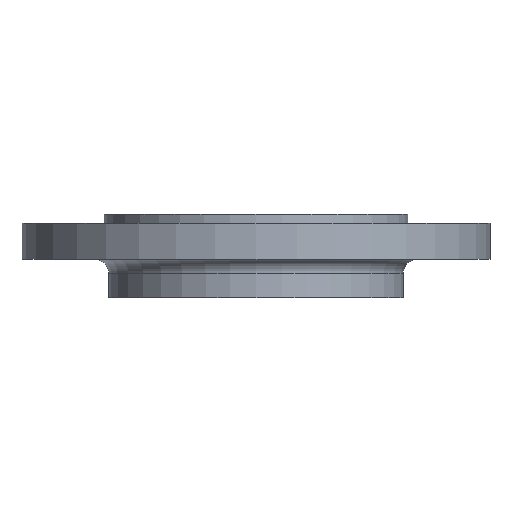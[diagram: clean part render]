
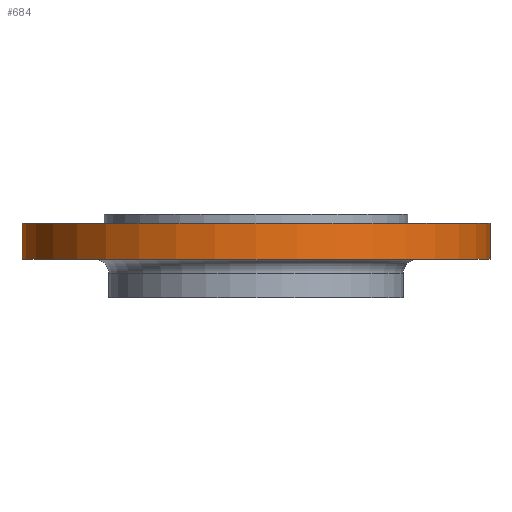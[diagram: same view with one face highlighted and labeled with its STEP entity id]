
A CAD part, front view. The second image highlights one B-rep face of the part: STEP entity #684.
In plain terms, the highlighted cylindrical face has radius 135 mm (diameter 270 mm), a partial arc.
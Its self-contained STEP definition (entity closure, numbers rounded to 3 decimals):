
#63 = CARTESIAN_POINT ( 'NONE',  ( -135., 0., -26. ) ) ;
#78 = VECTOR ( 'NONE', #377, 1000. ) ;
#192 = CARTESIAN_POINT ( 'NONE',  ( 135., 0., -26. ) ) ;
#377 = DIRECTION ( 'NONE',  ( 0., 0., 1. ) ) ;
#378 = CARTESIAN_POINT ( 'NONE',  ( 135., 0., -78. ) ) ;
#379 = LINE ( 'NONE', #378, #78 ) ;
#384 = DIRECTION ( 'NONE',  ( 0., 0., 1. ) ) ;
#385 = CARTESIAN_POINT ( 'NONE',  ( -135., 0., -78. ) ) ;
#386 = LINE ( 'NONE', #385, #848 ) ;
#452 = DIRECTION ( 'NONE',  ( 1., 0., 0. ) ) ;
#453 = DIRECTION ( 'NONE',  ( 0., 0., 1. ) ) ;
#455 = CARTESIAN_POINT ( 'NONE',  ( 0., 0., -78. ) ) ;
#457 = CYLINDRICAL_SURFACE ( 'NONE', #842, 135. ) ;
#458 = FACE_OUTER_BOUND ( 'NONE', #639, .T. ) ;
#476 = CARTESIAN_POINT ( 'NONE',  ( 135., 0., -5. ) ) ;
#504 = DIRECTION ( 'NONE',  ( 1., 0., 0. ) ) ;
#505 = DIRECTION ( 'NONE',  ( 0., 0., 1. ) ) ;
#506 = CARTESIAN_POINT ( 'NONE',  ( 0., 0., -26. ) ) ;
#513 = EDGE_CURVE ( 'NONE', #636, #547, #822, .T. ) ;
#547 = VERTEX_POINT ( 'NONE', #554 ) ;
#554 = CARTESIAN_POINT ( 'NONE',  ( -135., 0., -5. ) ) ;
#577 = EDGE_CURVE ( 'NONE', #1075, #903, #702, .T. ) ;
#599 = DIRECTION ( 'NONE',  ( -1., 0., 0. ) ) ;
#606 = DIRECTION ( 'NONE',  ( 0., 0., -1. ) ) ;
#631 = CARTESIAN_POINT ( 'NONE',  ( 0., 0., -5. ) ) ;
#636 = VERTEX_POINT ( 'NONE', #476 ) ;
#639 = EDGE_LOOP ( 'NONE', ( #890, #895, #1042, #1043 ) ) ;
#668 = AXIS2_PLACEMENT_3D ( 'NONE', #631, #606, #599 ) ;
#684 = ADVANCED_FACE ( 'NONE', ( #458 ), #457, .T. ) ;
#702 = CIRCLE ( 'NONE', #740, 135. ) ;
#740 = AXIS2_PLACEMENT_3D ( 'NONE', #506, #505, #504 ) ;
#797 = EDGE_CURVE ( 'NONE', #1075, #547, #386, .T. ) ;
#806 = EDGE_CURVE ( 'NONE', #903, #636, #379, .T. ) ;
#822 = CIRCLE ( 'NONE', #668, 135. ) ;
#842 = AXIS2_PLACEMENT_3D ( 'NONE', #455, #453, #452 ) ;
#848 = VECTOR ( 'NONE', #384, 1000. ) ;
#890 = ORIENTED_EDGE ( 'NONE', *, *, #797, .F. ) ;
#895 = ORIENTED_EDGE ( 'NONE', *, *, #577, .T. ) ;
#903 = VERTEX_POINT ( 'NONE', #192 ) ;
#1042 = ORIENTED_EDGE ( 'NONE', *, *, #806, .T. ) ;
#1043 = ORIENTED_EDGE ( 'NONE', *, *, #513, .T. ) ;
#1075 = VERTEX_POINT ( 'NONE', #63 ) ;
